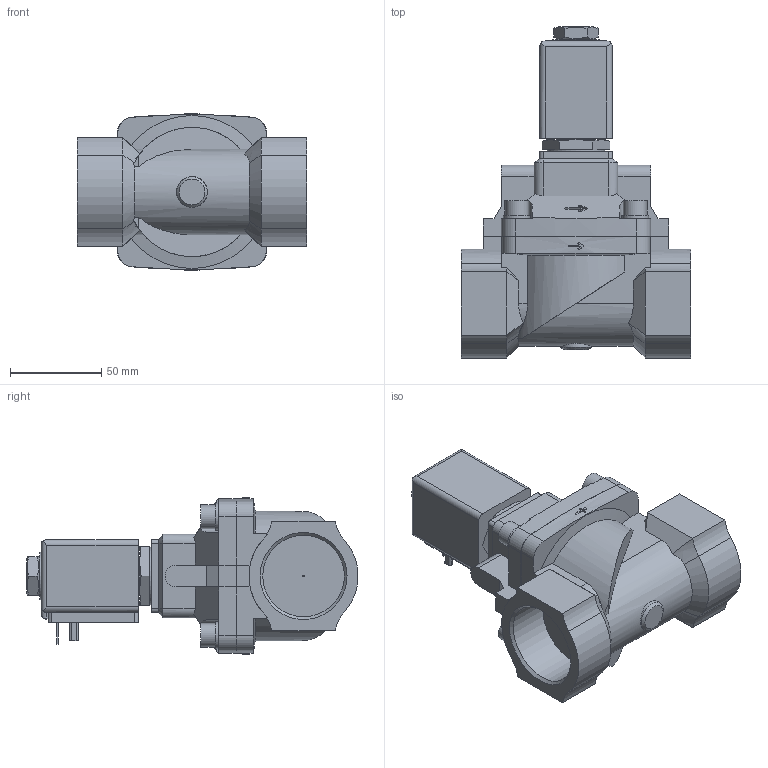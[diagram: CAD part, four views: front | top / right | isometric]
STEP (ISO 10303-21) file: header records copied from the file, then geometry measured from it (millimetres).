
FILE_DESCRIPTION(/* description */ ('STEP AP214'),/* implementation_level */ '2;1');
FILE_NAME(/* name */ '5404-342023-Servo-assisted_2_2_way_piston_valve',/* time_stamp */ '2024-02-27T11:40:15+01:00',/* author */ ('License CC BY-ND 4.0'),/* organization */ ('CADENAS'),/* preprocessor_version */ 'ST-DEVELOPER v19.3',/* originating_system */ 'PARTsolutions',/* authorisation */ ' ');
FILE_SCHEMA (('AUTOMOTIVE_DESIGN {1 0 10303 214 3 1 1}'));
Length unit declared in the file: millimetre
Products named in the file (4): 5404-342023-Servo-assisted 2/2 way piston valve; 5282g-8840MS000-2/2-Wege-Magnetventil_Gehaeuse; 5282d-40MSAZ4N-2/2-Wege-Magnetventil_Deckel; 6213sp 40 Plan 40
Assembly tree (3 placements, depth 2):
  5404-342023-Servo-assisted 2/2 way piston valve
    5282g-8840MS000-2/2-Wege-Magnetventil_Gehaeuse
    5282d-40MSAZ4N-2/2-Wege-Magnetventil_Deckel
    6213sp 40 Plan 40
Bounding box: 126 x 182.35 x 86 mm (x, y, z)
Volume: 615839.7 mm3; surface area: 87903.1 mm2
Topology: 3 solids, 3 shells, 304 faces, 783 edges, 509 vertices
Faces by surface type: plane 173, cylinder 104, cone 27
Full cylindrical faces by diameter (mm): 1 x1, 2.45 x1, 13 x4, 14 x1, 14.8 x4, 17 x1, 18.5 x1, 25.9 x1, 31.5 x1, 44.845 x2
Entity records: 9792 total; most frequent: CARTESIAN_POINT 1822, DIRECTION 1548, ORIENTED_EDGE 1506, EDGE_CURVE 753, AXIS2_PLACEMENT_3D 552, VERTEX_POINT 501, LINE 444, VECTOR 444
